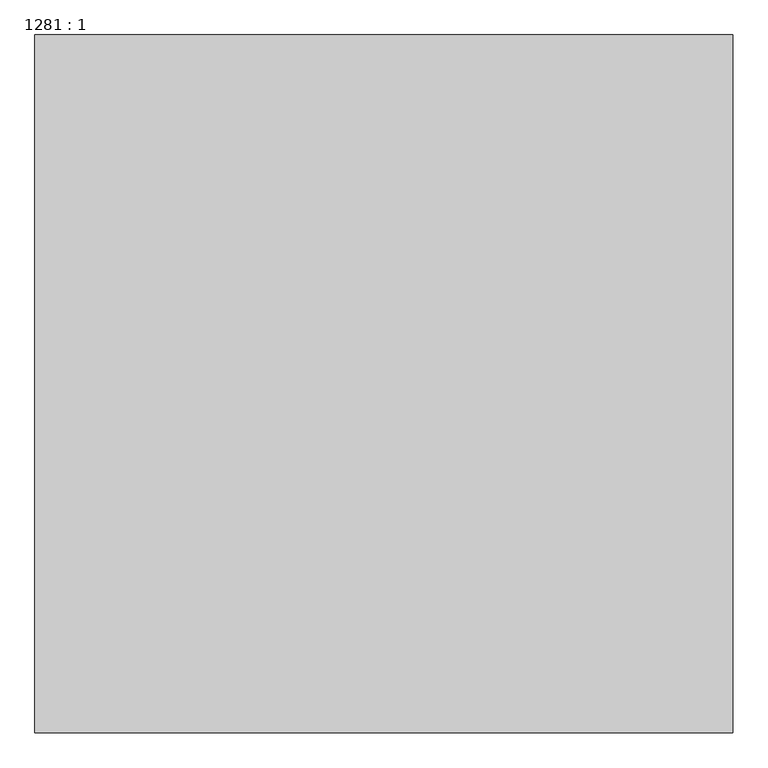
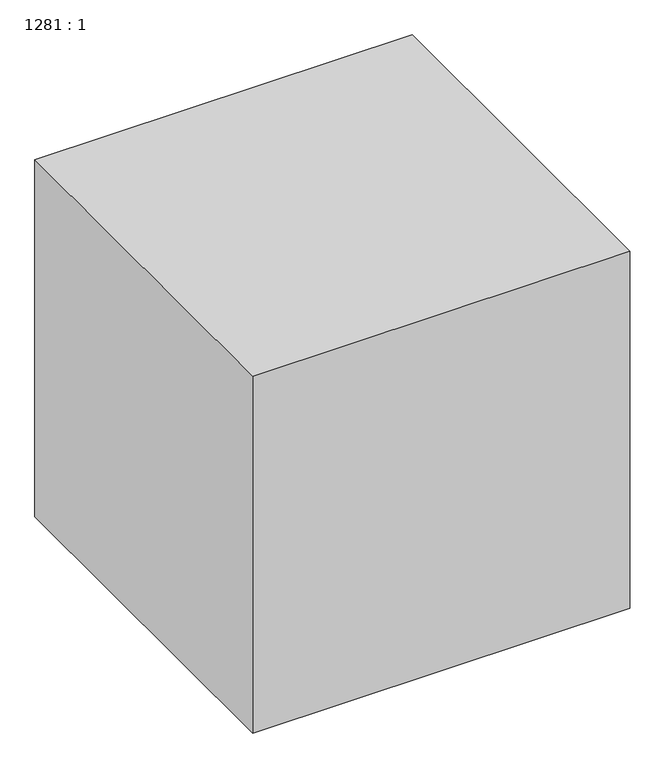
"""IFC4 building model written with IfcOpenShell, lengths in millimetres: proxy geometry, 1281 : 1."""

from ifc_helpers import new_model, si_unit, origin, origin_with_axes, place, context, project, spatial, polyline, outline, extrude, source, transform, mapped, element, save


def proxy_1281_1_40a85a4f(model_context):
    return source(origin(), model_context, "Body", "SweptSolid", [
        extrude(outline(polyline([(3692.0243292, -12664.7705528), (3692.0243292, -13664.7705528), (2692.0243292, -13664.7705528), (2692.0243292, -12664.7705528), (3692.0243292, -12664.7705528)])), origin_with_axes(), (0.0, 0.0, 1.0), 1000.0),
    ])


if __name__ == "__main__":
    model = new_model("IFC4")
    model_context = context("Model", 3, world=origin())
    ifc_project = project(units=[si_unit("LENGTHUNIT", "METRE", prefix="MILLI")], contexts=[model_context])
    site = spatial("IfcSite", under=ifc_project)
    building = spatial("IfcBuilding", under=site)
    placement = place(None, origin())
    proxy_1281_1_shape = proxy_1281_1_40a85a4f(model_context)
    element("IfcBuildingElementProxy", 1, Name="1281 : 1", ObjectType="1281 : 1", at=placement, inside=building, context=model_context, shape_type="MappedRepresentation", body=[
        mapped(proxy_1281_1_shape, transform((0.0, 0.0, 0.0), x_axis=(1.0, 0.0, 0.0), y_axis=(0.0, 1.0, 0.0), z_axis=(0.0, 0.0, 1.0))),
    ])
    save(model, "model.ifc")
